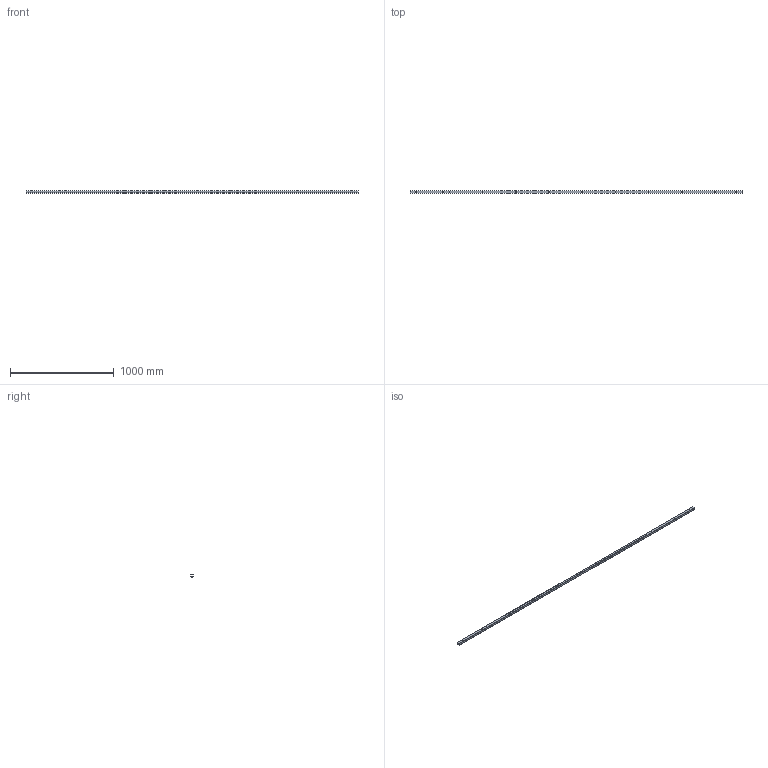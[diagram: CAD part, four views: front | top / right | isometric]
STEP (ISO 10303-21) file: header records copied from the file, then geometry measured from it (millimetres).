
FILE_DESCRIPTION( ( '' ), '1' );
FILE_NAME( 'D:/temp/hettich_stp/hettich/4_folding_sliding/4.6_accessories/runner_guide_profile/72914.stp', '2013-02-26T10:24:28', ( '' ), ( '' ), ' ', ' ', ' ' );
FILE_SCHEMA( ( 'automotive_design' ) );
Length unit declared in the file: millimetre
Products named in the file (1): 1
Bounding box: 3200 x 26 x 25 mm (x, y, z)
Volume: 260851 mm3; surface area: 528469.3 mm2
Topology: 1 solids, 1 shells, 54 faces, 156 edges, 104 vertices
Faces by surface type: cylinder 36, plane 18
Entity records: 3616 total; most frequent: DIRECTION 338, STYLED_ITEM 315, PRESENTATION_STYLE_ASSIGNMENT 315, CARTESIAN_POINT 315, COLOUR_RGB 315, ORIENTED_EDGE 312, EDGE_CURVE 156, CURVE_STYLE 156
